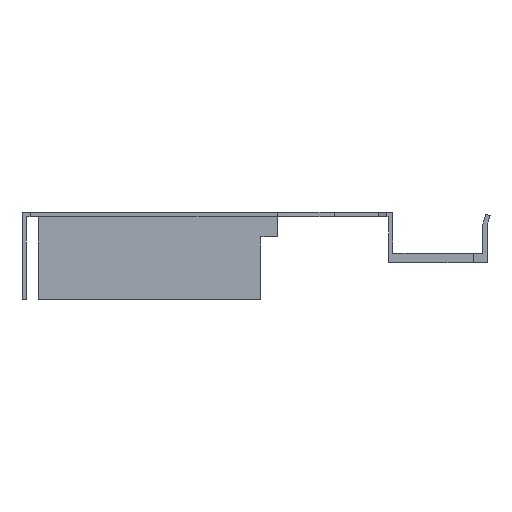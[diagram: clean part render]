
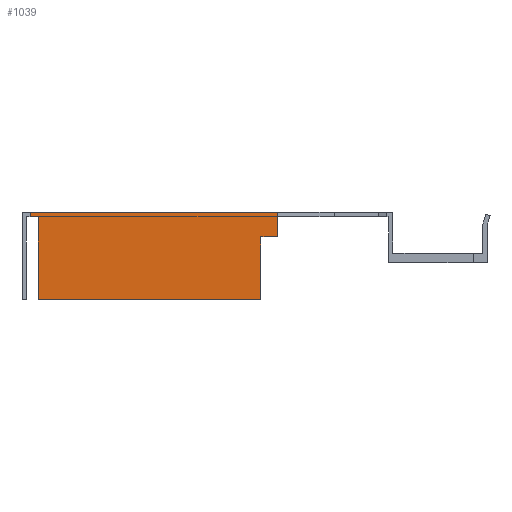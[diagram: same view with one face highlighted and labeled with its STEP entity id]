
A CAD part, left-side view. The second image highlights one B-rep face of the part: STEP entity #1039.
In plain terms, the highlighted planar face has unit normal (-1, 0, 0).
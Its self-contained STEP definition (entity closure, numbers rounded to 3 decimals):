
#3 = LINE ( 'NONE', #623, #4 ) ;
#4 = VECTOR ( 'NONE', #624, 1000. ) ;
#5 = LINE ( 'NONE', #625, #6 ) ;
#6 = VECTOR ( 'NONE', #626, 1000. ) ;
#9 = LINE ( 'NONE', #629, #10 ) ;
#10 = VECTOR ( 'NONE', #630, 1000. ) ;
#11 = LINE ( 'NONE', #631, #12 ) ;
#12 = VECTOR ( 'NONE', #632, 1000. ) ;
#13 = LINE ( 'NONE', #633, #14 ) ;
#14 = VECTOR ( 'NONE', #634, 1000. ) ;
#183 = ORIENTED_EDGE ( 'NONE', *, *, #1578, .T. ) ;
#244 = ORIENTED_EDGE ( 'NONE', *, *, #1583, .T. ) ;
#245 = ORIENTED_EDGE ( 'NONE', *, *, #1579, .F. ) ;
#246 = ORIENTED_EDGE ( 'NONE', *, *, #1511, .F. ) ;
#247 = ORIENTED_EDGE ( 'NONE', *, *, #1564, .T. ) ;
#272 = ORIENTED_EDGE ( 'NONE', *, *, #1582, .F. ) ;
#317 = ORIENTED_EDGE ( 'NONE', *, *, #1581, .T. ) ;
#397 = ORIENTED_EDGE ( 'NONE', *, *, #1534, .F. ) ;
#438 = AXIS2_PLACEMENT_3D ( 'NONE', #1261, #1267, #1268 ) ;
#484 = CARTESIAN_POINT ( 'NONE',  ( -761., 0., 7.5 ) ) ;
#487 = DIRECTION ( 'NONE',  ( 0., -1., 0. ) ) ;
#532 = CARTESIAN_POINT ( 'NONE',  ( -761., 0.8, 6.7 ) ) ;
#533 = DIRECTION ( 'NONE',  ( 0., 1., 0. ) ) ;
#595 = CARTESIAN_POINT ( 'NONE',  ( -761., 24.2, -8.5 ) ) ;
#596 = DIRECTION ( 'NONE',  ( 0., 0., 1. ) ) ;
#623 = CARTESIAN_POINT ( 'NONE',  ( -761., 65., -8.5 ) ) ;
#624 = DIRECTION ( 'NONE',  ( 0., -1., 0. ) ) ;
#625 = CARTESIAN_POINT ( 'NONE',  ( -761., 21.2, 0. ) ) ;
#626 = DIRECTION ( 'NONE',  ( 0., 0., -1. ) ) ;
#629 = CARTESIAN_POINT ( 'NONE',  ( -761., 65., 7.5 ) ) ;
#630 = DIRECTION ( 'NONE',  ( 0., 0., -1. ) ) ;
#631 = CARTESIAN_POINT ( 'NONE',  ( -761., 66.5, 6.7 ) ) ;
#632 = DIRECTION ( 'NONE',  ( 0., 0., 1. ) ) ;
#633 = CARTESIAN_POINT ( 'NONE',  ( -761., 24.2, 3. ) ) ;
#634 = DIRECTION ( 'NONE',  ( 0., -1., 0. ) ) ;
#720 = CARTESIAN_POINT ( 'NONE',  ( -761., 66.5, 7.5 ) ) ;
#725 = CARTESIAN_POINT ( 'NONE',  ( -761., 21.2, 7.5 ) ) ;
#796 = VECTOR ( 'NONE', #533, 1000. ) ;
#797 = LINE ( 'NONE', #532, #796 ) ;
#843 = VECTOR ( 'NONE', #487, 1000. ) ;
#908 = FACE_OUTER_BOUND ( 'NONE', #995, .T. ) ;
#973 = LINE ( 'NONE', #484, #843 ) ;
#995 = EDGE_LOOP ( 'NONE', ( #272, #397, #317, #183, #247, #244, #245, #246 ) ) ;
#1039 = ADVANCED_FACE ( 'NONE', ( #908 ), #1258, .T. ) ;
#1139 = VERTEX_POINT ( 'NONE', #1330 ) ;
#1144 = VERTEX_POINT ( 'NONE', #1335 ) ;
#1145 = VERTEX_POINT ( 'NONE', #1336 ) ;
#1158 = VERTEX_POINT ( 'NONE', #1349 ) ;
#1160 = VERTEX_POINT ( 'NONE', #1351 ) ;
#1169 = VERTEX_POINT ( 'NONE', #1360 ) ;
#1258 = PLANE ( 'NONE',  #438 ) ;
#1261 = CARTESIAN_POINT ( 'NONE',  ( -761., -16.5, 0. ) ) ;
#1267 = DIRECTION ( 'NONE',  ( -1., 0., 0. ) ) ;
#1268 = DIRECTION ( 'NONE',  ( 0., 0., 1. ) ) ;
#1330 = CARTESIAN_POINT ( 'NONE',  ( -761., 24.2, 3. ) ) ;
#1335 = CARTESIAN_POINT ( 'NONE',  ( -761., 24.2, -8.5 ) ) ;
#1336 = CARTESIAN_POINT ( 'NONE',  ( -761., 65., 6.7 ) ) ;
#1349 = CARTESIAN_POINT ( 'NONE',  ( -761., 65., -8.5 ) ) ;
#1351 = CARTESIAN_POINT ( 'NONE',  ( -761., 21.2, 3. ) ) ;
#1360 = CARTESIAN_POINT ( 'NONE',  ( -761., 66.5, 6.7 ) ) ;
#1452 = VECTOR ( 'NONE', #596, 1000. ) ;
#1454 = LINE ( 'NONE', #595, #1452 ) ;
#1511 = EDGE_CURVE ( 'NONE', #1637, #1640, #973, .T. ) ;
#1534 = EDGE_CURVE ( 'NONE', #1145, #1169, #797, .T. ) ;
#1564 = EDGE_CURVE ( 'NONE', #1144, #1139, #1454, .T. ) ;
#1578 = EDGE_CURVE ( 'NONE', #1158, #1144, #3, .T. ) ;
#1579 = EDGE_CURVE ( 'NONE', #1640, #1160, #5, .T. ) ;
#1581 = EDGE_CURVE ( 'NONE', #1145, #1158, #9, .T. ) ;
#1582 = EDGE_CURVE ( 'NONE', #1169, #1637, #11, .T. ) ;
#1583 = EDGE_CURVE ( 'NONE', #1139, #1160, #13, .T. ) ;
#1637 = VERTEX_POINT ( 'NONE', #720 ) ;
#1640 = VERTEX_POINT ( 'NONE', #725 ) ;
